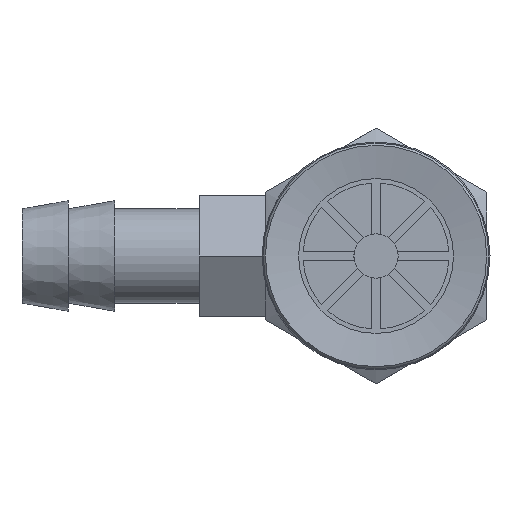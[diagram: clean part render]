
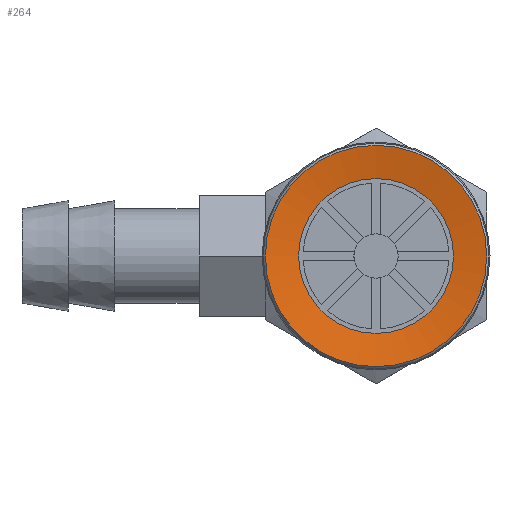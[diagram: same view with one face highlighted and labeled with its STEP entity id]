
A CAD part, front view. The second image highlights one B-rep face of the part: STEP entity #264.
In plain terms, the highlighted conical face has half-angle 80 degrees and reference radius 5 mm.
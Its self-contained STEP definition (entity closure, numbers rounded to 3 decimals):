
#264=ADVANCED_FACE('',(#452,#453),#454,.F.);
#452=FACE_BOUND('',#713,.T.);
#453=FACE_OUTER_BOUND('',#714,.T.);
#454=CONICAL_SURFACE('',#715,5.0,1.396);
#713=EDGE_LOOP('',(#1182));
#714=EDGE_LOOP('',(#1183));
#715=AXIS2_PLACEMENT_3D('',#1184,#1185,#1186);
#1182=ORIENTED_EDGE('',*,*,#1665,.T.);
#1183=ORIENTED_EDGE('',*,*,#1666,.F.);
#1184=CARTESIAN_POINT('',(0.0,0.,0.));
#1185=DIRECTION('',(0.0,0.,-1.0));
#1186=DIRECTION('',(0.0,1.0,0.));
#1665=EDGE_CURVE('',#1936,#1936,#1937,.T.);
#1666=EDGE_CURVE('',#1938,#1938,#1939,.T.);
#1936=VERTEX_POINT('',#2588);
#1937=CIRCLE('',#2589,3.5);
#1938=VERTEX_POINT('',#2590);
#1939=CIRCLE('',#2591,5.0);
#2588=CARTESIAN_POINT('',(0.0,-3.5,0.264));
#2589=AXIS2_PLACEMENT_3D('',#2992,#2993,#2994);
#2590=CARTESIAN_POINT('',(0.0,-5.0,0.));
#2591=AXIS2_PLACEMENT_3D('',#2995,#2996,#2997);
#2992=CARTESIAN_POINT('',(0.0,0.,0.264));
#2993=DIRECTION('',(0.0,0.,1.0));
#2994=DIRECTION('',(0.0,-1.0,0.));
#2995=CARTESIAN_POINT('',(0.0,0.,0.));
#2996=DIRECTION('',(0.0,0.,1.0));
#2997=DIRECTION('',(0.0,-1.0,0.));
